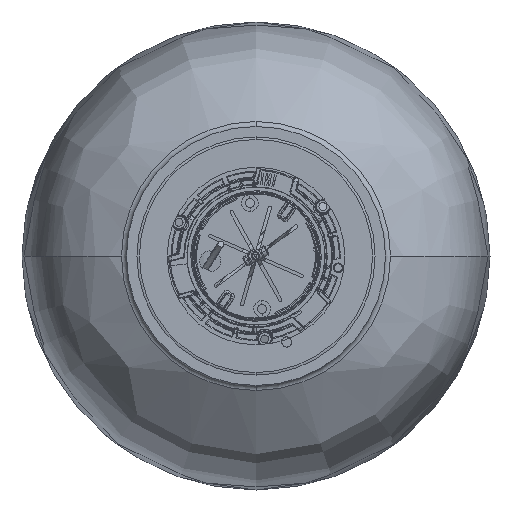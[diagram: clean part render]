
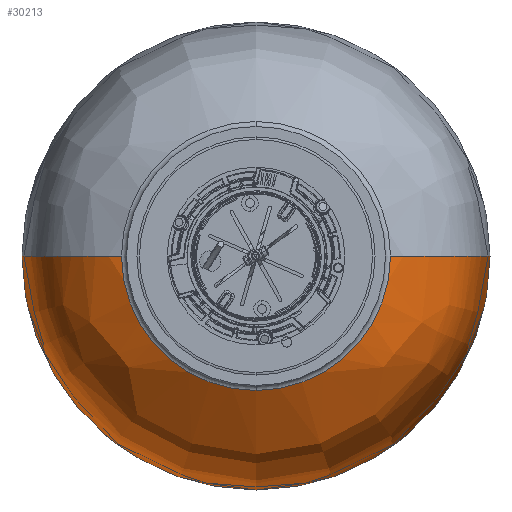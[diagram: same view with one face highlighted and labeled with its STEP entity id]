
A CAD part, front view. The second image highlights one B-rep face of the part: STEP entity #30213.
In plain terms, the highlighted free-form (B-spline) face has degree [3, 3] with [9, 4] control points.
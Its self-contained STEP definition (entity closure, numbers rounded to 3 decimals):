
#426 = EDGE_LOOP ( 'NONE', ( #27051, #24706, #64795, #13107, #35879 ) ) ;
#1018 = CARTESIAN_POINT ( 'NONE',  ( 75.875, -392.308, -0.055 ) ) ;
#1078 = AXIS2_PLACEMENT_3D ( 'NONE', #34844, #58000, #35998 ) ;
#1744 = CARTESIAN_POINT ( 'NONE',  ( -75.491, -392.308, -0.055 ) ) ;
#2258 = VERTEX_POINT ( 'NONE', #18472 ) ;
#2525 = DIRECTION ( 'NONE',  ( 0., 0., 1. ) ) ;
#3268 = CARTESIAN_POINT ( 'NONE',  ( -111.806, -195.869, -224.051 ) ) ;
#4201 = AXIS2_PLACEMENT_3D ( 'NONE', #50526, #67952, #51287 ) ;
#4813 = CARTESIAN_POINT ( 'NONE',  ( 90.203, -381.965, -0.055 ) ) ;
#4996 = CIRCLE ( 'NONE', #47514, 64.353 ) ;
#8609 = CARTESIAN_POINT ( 'NONE',  ( -103.098, -362.962, -206.635 ) ) ;
#8957 = CARTESIAN_POINT ( 'NONE',  ( -89.818, -381.965, -0.055 ) ) ;
#9324 = CARTESIAN_POINT ( 'NONE',  ( -111.727, -234.72, -0.055 ) ) ;
#10072 = CARTESIAN_POINT ( 'NONE',  ( 111.054, -318.836, -221.779 ) ) ;
#10512 = CARTESIAN_POINT ( 'NONE',  ( 106.966, -349.79, -0.055 ) ) ;
#12412 = CARTESIAN_POINT ( 'NONE',  ( 64.545, -394.809, -0.055 ) ) ;
#13107 = ORIENTED_EDGE ( 'NONE', *, *, #13970, .F. ) ;
#13272 = CARTESIAN_POINT ( 'NONE',  ( -110.67, -318.836, -0.055 ) ) ;
#13970 = EDGE_CURVE ( 'NONE', #2258, #43503, #42715, .T. ) ;
#14312 = CARTESIAN_POINT ( 'NONE',  ( -111.727, -234.72, -223.894 ) ) ;
#14672 = CARTESIAN_POINT ( 'NONE',  ( -110.67, -318.836, -0.055 ) ) ;
#15000 = EDGE_CURVE ( 'NONE', #54010, #41155, #4996, .T. ) ;
#15804 = CARTESIAN_POINT ( 'NONE',  ( -106.581, -349.79, -0.055 ) ) ;
#18472 = CARTESIAN_POINT ( 'NONE',  ( 64.545, -394.809, -0.055 ) ) ;
#21174 = CARTESIAN_POINT ( 'NONE',  ( -110.67, -318.836, -221.779 ) ) ;
#24205 = CIRCLE ( 'NONE', #1078, 112. ) ;
#24706 = ORIENTED_EDGE ( 'NONE', *, *, #44486, .T. ) ;
#24719 = CARTESIAN_POINT ( 'NONE',  ( -64.161, -394.809, -0.055 ) ) ;
#24850 = CARTESIAN_POINT ( 'NONE',  ( -64.161, -394.809, -0.055 ) ) ;
#25782 = CARTESIAN_POINT ( 'NONE',  ( -111.806, -195.869, -0.055 ) ) ;
#26493 = CARTESIAN_POINT ( 'NONE',  ( 112.192, -193.827, -224.055 ) ) ;
#27051 = ORIENTED_EDGE ( 'NONE', *, *, #15000, .T. ) ;
#27224 = CARTESIAN_POINT ( 'NONE',  ( -89.818, -381.965, -180.077 ) ) ;
#27673 = CARTESIAN_POINT ( 'NONE',  ( 103.482, -362.962, -0.055 ) ) ;
#28040 = CARTESIAN_POINT ( 'NONE',  ( 111.054, -318.836, -0.055 ) ) ;
#30213 = ADVANCED_FACE ( 'NONE', ( #59168 ), #66100, .F. ) ;
#30324 = CARTESIAN_POINT ( 'NONE',  ( 75.875, -392.308, -151.421 ) ) ;
#32191 = CARTESIAN_POINT ( 'NONE',  ( -111.808, -193.827, -224.055 ) ) ;
#32544 = CARTESIAN_POINT ( 'NONE',  ( 90.203, -381.965, -0.055 ) ) ;
#34844 = CARTESIAN_POINT ( 'NONE',  ( 0.192, -193.827, -0.055 ) ) ;
#35665 = CARTESIAN_POINT ( 'NONE',  ( -64.161, -394.809, -128.761 ) ) ;
#35879 = ORIENTED_EDGE ( 'NONE', *, *, #72987, .T. ) ;
#35998 = DIRECTION ( 'NONE',  ( 0., 0., 1. ) ) ;
#36515 = CARTESIAN_POINT ( 'NONE',  ( -111.727, -234.72, -0.055 ) ) ;
#38097 = EDGE_CURVE ( 'NONE', #43503, #57686, #24205, .T. ) ;
#38240 = CARTESIAN_POINT ( 'NONE',  ( 90.203, -381.965, -180.077 ) ) ;
#41155 = VERTEX_POINT ( 'NONE', #24850 ) ;
#42177 = CARTESIAN_POINT ( 'NONE',  ( -103.098, -362.962, -0.055 ) ) ;
#42715 = B_SPLINE_CURVE_WITH_KNOTS ( 'NONE', 3,
 ( #73529, #73894, #4813, #27673, #10512, #28040, #74280, #53087, #46608 ),
 .UNSPECIFIED., .F., .F.,
 ( 4, 1, 1, 1, 1, 1, 4 ),
 ( 0.045, 0.28, 0.332, 0.526, 0.595, 0.978, 1. ),
 .UNSPECIFIED. ) ;
#43503 = VERTEX_POINT ( 'NONE', #49835 ) ;
#43586 = CARTESIAN_POINT ( 'NONE',  ( -106.581, -349.79, -213.602 ) ) ;
#43950 = CARTESIAN_POINT ( 'NONE',  ( -103.098, -362.962, -0.055 ) ) ;
#44486 = EDGE_CURVE ( 'NONE', #41155, #57686, #67559, .T. ) ;
#46608 = CARTESIAN_POINT ( 'NONE',  ( 112.192, -193.827, -0.055 ) ) ;
#47418 = CARTESIAN_POINT ( 'NONE',  ( 0.192, -394.809, -0.055 ) ) ;
#47514 = AXIS2_PLACEMENT_3D ( 'NONE', #47418, #70903, #2525 ) ;
#47865 = CARTESIAN_POINT ( 'NONE',  ( -75.491, -392.308, -0.055 ) ) ;
#48927 = CARTESIAN_POINT ( 'NONE',  ( 112.192, -193.827, -0.055 ) ) ;
#49666 = CARTESIAN_POINT ( 'NONE',  ( 111.054, -318.836, -0.055 ) ) ;
#49835 = CARTESIAN_POINT ( 'NONE',  ( 112.192, -193.827, -0.055 ) ) ;
#50377 = CARTESIAN_POINT ( 'NONE',  ( 103.482, -362.962, -0.055 ) ) ;
#50526 = CARTESIAN_POINT ( 'NONE',  ( 0.192, -394.809, -0.055 ) ) ;
#51287 = DIRECTION ( 'NONE',  ( 0., 0., 1. ) ) ;
#51780 = CARTESIAN_POINT ( 'NONE',  ( 0.192, -394.809, -64.408 ) ) ;
#53087 = CARTESIAN_POINT ( 'NONE',  ( 112.19, -195.869, -0.055 ) ) ;
#53852 = CARTESIAN_POINT ( 'NONE',  ( -75.491, -392.308, -151.421 ) ) ;
#54010 = VERTEX_POINT ( 'NONE', #51780 ) ;
#54608 = CARTESIAN_POINT ( 'NONE',  ( 112.112, -234.72, -223.894 ) ) ;
#55351 = CARTESIAN_POINT ( 'NONE',  ( 112.19, -195.869, -224.051 ) ) ;
#55707 = CARTESIAN_POINT ( 'NONE',  ( -111.808, -193.827, -0.055 ) ) ;
#55804 = CARTESIAN_POINT ( 'NONE',  ( -111.806, -195.869, -0.055 ) ) ;
#57686 = VERTEX_POINT ( 'NONE', #71809 ) ;
#58000 = DIRECTION ( 'NONE',  ( 0., 1., 0. ) ) ;
#58793 = CARTESIAN_POINT ( 'NONE',  ( -64.161, -394.809, -0.055 ) ) ;
#59168 = FACE_OUTER_BOUND ( 'NONE', #426, .T. ) ;
#61406 = CARTESIAN_POINT ( 'NONE',  ( 112.112, -234.72, -0.055 ) ) ;
#62457 = CIRCLE ( 'NONE', #4201, 64.353 ) ;
#64470 = CARTESIAN_POINT ( 'NONE',  ( 64.545, -394.809, -128.761 ) ) ;
#64795 = ORIENTED_EDGE ( 'NONE', *, *, #38097, .F. ) ;
#65295 = CARTESIAN_POINT ( 'NONE',  ( -106.581, -349.79, -0.055 ) ) ;
#66100 =( BOUNDED_SURFACE ( )  B_SPLINE_SURFACE ( 3, 3, ( 
 ( #12412, #64470, #35665, #58793 ),
 ( #1018, #30324, #53852, #1744 ),
 ( #32544, #38240, #27224, #8957 ),
 ( #50377, #72387, #8609, #43950 ),
 ( #73460, #67819, #43586, #15804 ),
 ( #49666, #10072, #21174, #14672 ),
 ( #61406, #54608, #14312, #9324 ),
 ( #67442, #55351, #3268, #25782 ),
 ( #48927, #26493, #32191, #55707 ) ),
 .UNSPECIFIED., .F., .F., .T. ) 
 B_SPLINE_SURFACE_WITH_KNOTS ( ( 4, 1, 1, 1, 1, 1, 4 ),
 ( 4, 4 ),
 ( 0.045, 0.28, 0.332, 0.526, 0.595, 0.978, 1. ),
 ( 0., 1. ),
 .UNSPECIFIED. ) 
 GEOMETRIC_REPRESENTATION_ITEM ( )  RATIONAL_B_SPLINE_SURFACE ( (
 ( 1., 0.333, 0.333, 1.),
 ( 1., 0.333, 0.333, 1.),
 ( 1., 0.333, 0.333, 1.),
 ( 1., 0.333, 0.333, 1.),
 ( 1., 0.333, 0.333, 1.),
 ( 1., 0.333, 0.333, 1.),
 ( 1., 0.333, 0.333, 1.),
 ( 1., 0.333, 0.333, 1.),
 ( 1., 0.333, 0.333, 1.) ) ) 
 REPRESENTATION_ITEM ( '' )  SURFACE ( )  );
#67442 = CARTESIAN_POINT ( 'NONE',  ( 112.19, -195.869, -0.055 ) ) ;
#67559 = B_SPLINE_CURVE_WITH_KNOTS ( 'NONE', 3,
 ( #24719, #47865, #70991, #42177, #65295, #13272, #36515, #55804, #73557 ),
 .UNSPECIFIED., .F., .F.,
 ( 4, 1, 1, 1, 1, 1, 4 ),
 ( 0.045, 0.28, 0.332, 0.526, 0.595, 0.978, 1. ),
 .UNSPECIFIED. ) ;
#67819 = CARTESIAN_POINT ( 'NONE',  ( 106.966, -349.79, -213.602 ) ) ;
#67952 = DIRECTION ( 'NONE',  ( 0., 1., 0. ) ) ;
#70903 = DIRECTION ( 'NONE',  ( 0., 1., 0. ) ) ;
#70991 = CARTESIAN_POINT ( 'NONE',  ( -89.818, -381.965, -0.055 ) ) ;
#71809 = CARTESIAN_POINT ( 'NONE',  ( -111.808, -193.827, -0.055 ) ) ;
#72387 = CARTESIAN_POINT ( 'NONE',  ( 103.482, -362.962, -206.635 ) ) ;
#72987 = EDGE_CURVE ( 'NONE', #2258, #54010, #62457, .T. ) ;
#73460 = CARTESIAN_POINT ( 'NONE',  ( 106.966, -349.79, -0.055 ) ) ;
#73529 = CARTESIAN_POINT ( 'NONE',  ( 64.545, -394.809, -0.055 ) ) ;
#73557 = CARTESIAN_POINT ( 'NONE',  ( -111.808, -193.827, -0.055 ) ) ;
#73894 = CARTESIAN_POINT ( 'NONE',  ( 75.875, -392.308, -0.055 ) ) ;
#74280 = CARTESIAN_POINT ( 'NONE',  ( 112.112, -234.72, -0.055 ) ) ;
